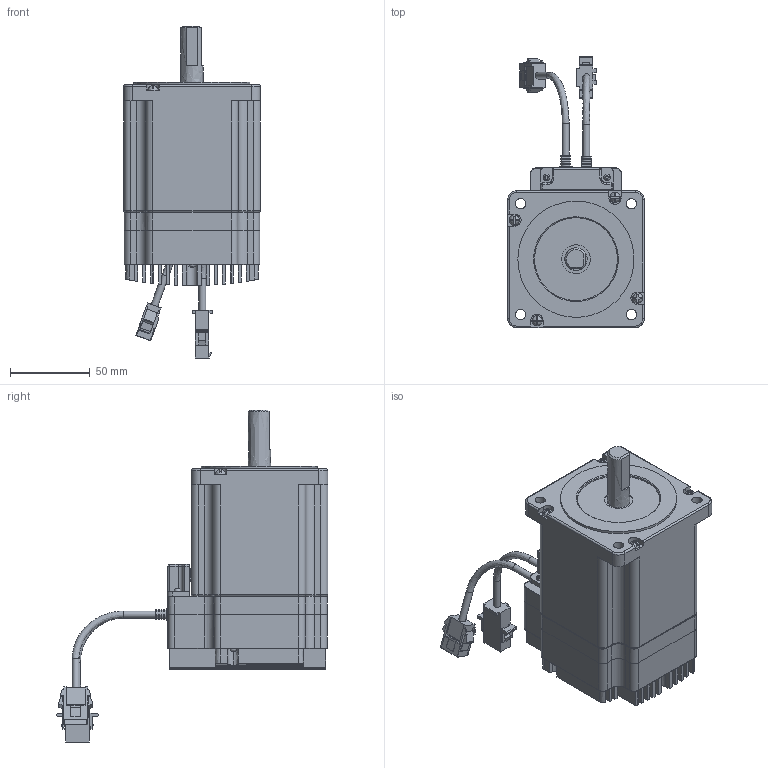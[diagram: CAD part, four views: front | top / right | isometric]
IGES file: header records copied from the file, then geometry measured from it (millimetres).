
Global section: file name: C:\DOCUME~1\PC001\BM-86S-assembly.igs; preprocessor: I-DEAS 3D IGES Translator 12; date: 20100125.211704; units: millimetre
Bounding box: 86 x 170.75 x 208.5 mm (x, y, z)
Volume: 659080.8 mm3; surface area: 140792.1 mm2
Topology: 11 solids, 11 shells, 984 faces, 2679 edges, 1864 vertices
Faces by surface type: bspline 984
